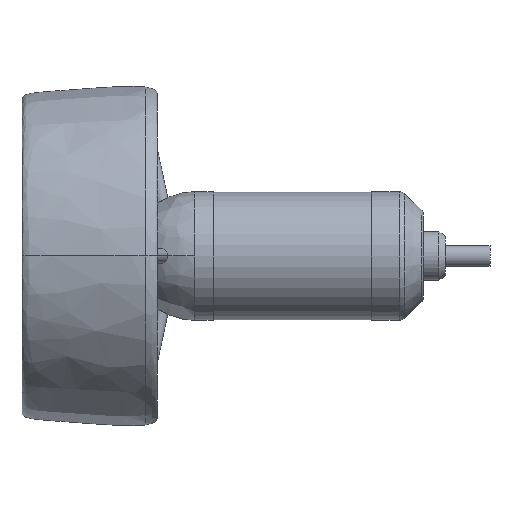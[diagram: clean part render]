
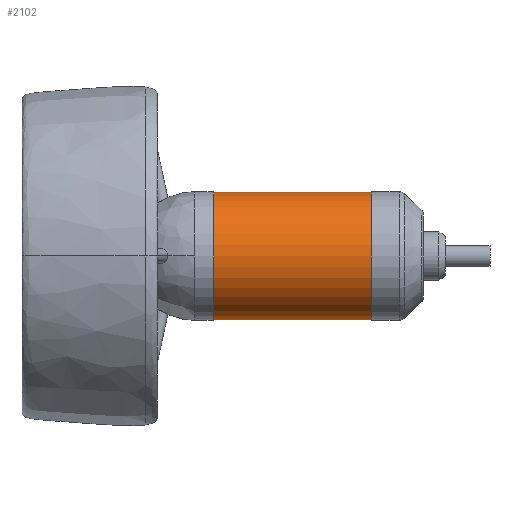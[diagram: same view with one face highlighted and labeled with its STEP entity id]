
A CAD part, front view. The second image highlights one B-rep face of the part: STEP entity #2102.
In plain terms, the highlighted cylindrical face has radius 28.85 mm (diameter 57.7 mm), a partial arc.
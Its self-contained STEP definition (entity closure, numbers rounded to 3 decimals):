
#66 = AXIS2_PLACEMENT_3D ( 'NONE', #3266, #1067, #1094 ) ;
#90 = DIRECTION ( 'NONE',  ( 1., 0., 0. ) ) ;
#143 = VECTOR ( 'NONE', #3337, 1000. ) ;
#301 = CIRCLE ( 'NONE', #2083, 28.85 ) ;
#381 = LINE ( 'NONE', #1857, #143 ) ;
#820 = ORIENTED_EDGE ( 'NONE', *, *, #4567, .T. ) ;
#840 = EDGE_CURVE ( 'NONE', #3463, #4668, #381, .T. ) ;
#887 = DIRECTION ( 'NONE',  ( 1., 0., 0. ) ) ;
#950 = CARTESIAN_POINT ( 'NONE',  ( 0., 0., -28.85 ) ) ;
#1067 = DIRECTION ( 'NONE',  ( 1., 0., 0. ) ) ;
#1078 = VECTOR ( 'NONE', #3175, 1000. ) ;
#1094 = DIRECTION ( 'NONE',  ( 0., 0., -1. ) ) ;
#1167 = EDGE_CURVE ( 'NONE', #2632, #2181, #3512, .T. ) ;
#1857 = CARTESIAN_POINT ( 'NONE',  ( 0., 0., 28.85 ) ) ;
#1937 = CARTESIAN_POINT ( 'NONE',  ( 22., 0., 28.85 ) ) ;
#2083 = AXIS2_PLACEMENT_3D ( 'NONE', #3039, #90, #4087 ) ;
#2102 = ADVANCED_FACE ( 'NONE', ( #4284 ), #4678, .T. ) ;
#2181 = VERTEX_POINT ( 'NONE', #3607 ) ;
#2286 = EDGE_LOOP ( 'NONE', ( #2744, #820, #4690, #2723 ) ) ;
#2441 = DIRECTION ( 'NONE',  ( 0., 0., -1. ) ) ;
#2632 = VERTEX_POINT ( 'NONE', #4421 ) ;
#2723 = ORIENTED_EDGE ( 'NONE', *, *, #3440, .F. ) ;
#2744 = ORIENTED_EDGE ( 'NONE', *, *, #840, .F. ) ;
#2986 = AXIS2_PLACEMENT_3D ( 'NONE', #3248, #887, #2441 ) ;
#3039 = CARTESIAN_POINT ( 'NONE',  ( -49., 0., 0. ) ) ;
#3175 = DIRECTION ( 'NONE',  ( 1., 0., 0. ) ) ;
#3248 = CARTESIAN_POINT ( 'NONE',  ( 0., 0., 0. ) ) ;
#3266 = CARTESIAN_POINT ( 'NONE',  ( 22., 0., 0. ) ) ;
#3337 = DIRECTION ( 'NONE',  ( 1., 0., 0. ) ) ;
#3440 = EDGE_CURVE ( 'NONE', #4668, #2181, #3550, .T. ) ;
#3463 = VERTEX_POINT ( 'NONE', #3624 ) ;
#3512 = LINE ( 'NONE', #950, #1078 ) ;
#3550 = CIRCLE ( 'NONE', #66, 28.85 ) ;
#3607 = CARTESIAN_POINT ( 'NONE',  ( 22., 0., -28.85 ) ) ;
#3624 = CARTESIAN_POINT ( 'NONE',  ( -49., 0., 28.85 ) ) ;
#4087 = DIRECTION ( 'NONE',  ( 0., 0., -1. ) ) ;
#4284 = FACE_OUTER_BOUND ( 'NONE', #2286, .T. ) ;
#4421 = CARTESIAN_POINT ( 'NONE',  ( -49., 0., -28.85 ) ) ;
#4567 = EDGE_CURVE ( 'NONE', #3463, #2632, #301, .T. ) ;
#4668 = VERTEX_POINT ( 'NONE', #1937 ) ;
#4678 = CYLINDRICAL_SURFACE ( 'NONE', #2986, 28.85 ) ;
#4690 = ORIENTED_EDGE ( 'NONE', *, *, #1167, .T. ) ;
